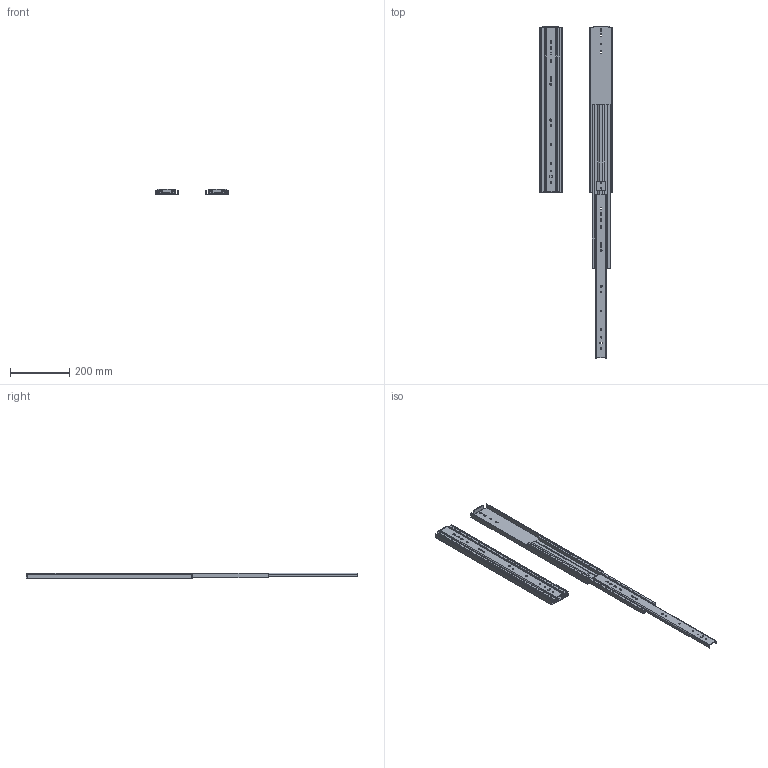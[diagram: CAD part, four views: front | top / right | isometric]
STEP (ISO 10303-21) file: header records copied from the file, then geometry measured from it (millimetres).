
FILE_DESCRIPTION((''),'2;1');
FILE_NAME('ASSEM1_ASM_1_1_ASM','2026-04-07T16:34:44',('T260078'),(''),'CREO PARAMETRIC BY PTC INC, 2025123','CREO PARAMETRIC BY PTC INC, 2025123','');
FILE_SCHEMA(('CONFIG_CONTROL_DESIGN','SHAPE_APPEARANCE_LAYERS_GROUPS'));
Length unit declared in the file: millimetre
Products named in the file (6): 76J01-22_X2_540B_X0_-M_2; 76J01-22_X2_540B_X0_-I_1; 76J01-22_X2_540B_X0_-O_1; 76J01-22_X2_540_X0__ASM_1_ASM; 76J01-22_X2_540B_X0_-_X2_5C5595_ASM; ASSEM1_ASM_1_1_ASM
Assembly tree (8 placements, depth 3):
  ASSEM1_ASM_1_1_ASM
    76J01-22_X2_540_X0__ASM_1_ASM
      76J01-22_X2_540B_X0_-M_2
      76J01-22_X2_540B_X0_-I_1
      76J01-22_X2_540B_X0_-O_1
    76J01-22_X2_540B_X0_-_X2_5C5595_ASM
      76J01-22_X2_540B_X0_-M_2
      76J01-22_X2_540B_X0_-I_1
      76J01-22_X2_540B_X0_-O_1
Bounding box: 245.44 x 1117.6 x 19.3 mm (x, y, z)
Volume: 681699.4 mm3; surface area: 610988.1 mm2
Topology: 6 solids, 6 shells, 388 faces, 1234 edges, 846 vertices
Faces by surface type: plane 200, cylinder 188
Entity records: 7254 total; most frequent: CARTESIAN_POINT 1278, DIRECTION 1255, ORIENTED_EDGE 1234, EDGE_CURVE 617, AXIS2_PLACEMENT_3D 431, VERTEX_POINT 423, VECTOR 393, LINE 393
